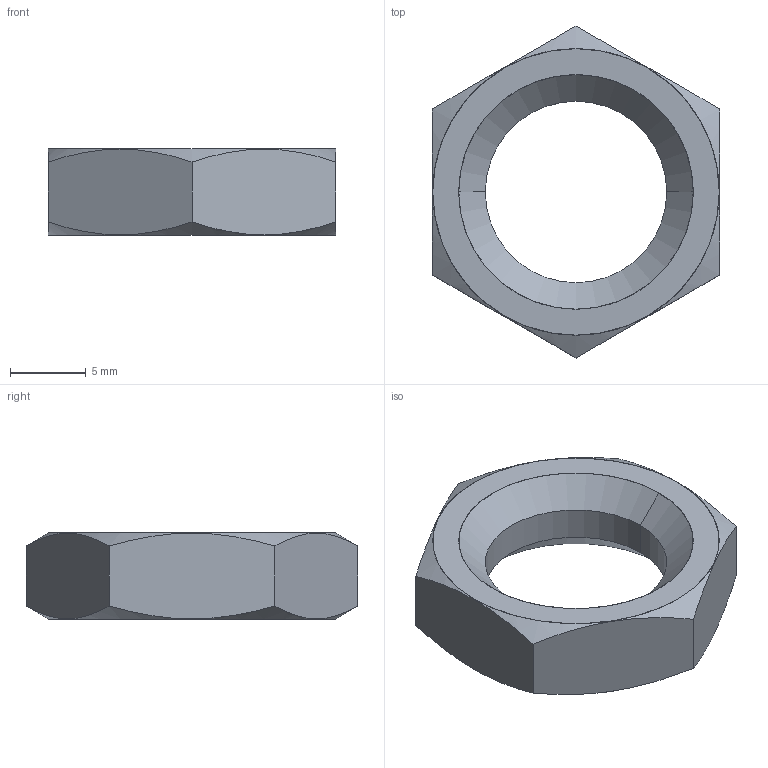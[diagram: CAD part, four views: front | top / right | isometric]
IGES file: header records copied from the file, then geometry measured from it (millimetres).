
Start section: SolidWorks IGES file using analytic representation for surfaces
Global section: file name: C:\Users\liam_\OneDrive\Desktop\Work\Mat Davis Pending 20181125\automotion\P SERIES\P0307.ZP_v2\P0307.ZP_v2_20181215_IGES\P0307.120-ZP.igs; native system: SolidWorks 2017; preprocessor: SolidWorks 2017; author: liam_; date: 181215.154921; units: millimetre
Bounding box: 19 x 21.94 x 5.7 mm (x, y, z)
Surface area: 888.7 mm2 (no closed solid volume)
Topology: 0 solids, 0 shells, 18 faces, 368 edges, 368 vertices
Faces by surface type: revolution 10, bspline 8
